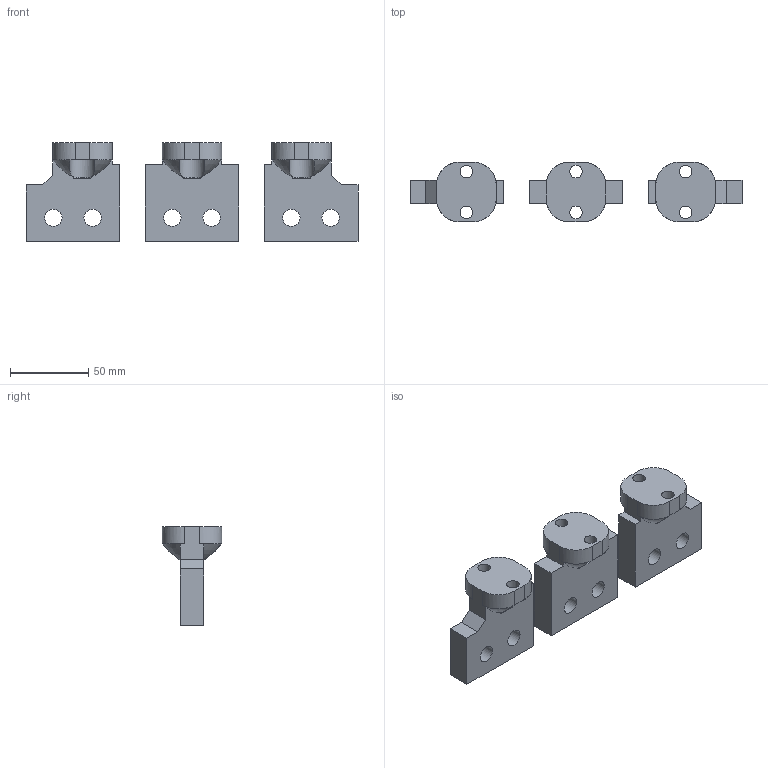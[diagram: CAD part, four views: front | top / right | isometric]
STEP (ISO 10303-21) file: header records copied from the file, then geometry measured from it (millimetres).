
FILE_DESCRIPTION(('STEP AP203'), '1');
FILE_NAME('Âûâîäû ãîðèç. 15ìì âåðõ', '', ('UNSPECIFIED'), ('UNSPECIFIED'), 'C3D Converter', 'C3D Toolkit', '');
FILE_SCHEMA(('CONFIG_CONTROL_DESIGN'));
Length unit declared in the file: millimetre
Assembly tree (3 placements, depth 2):
  (unnamed)
    (unnamed)
    (unnamed)
    (unnamed)
Bounding box: 212 x 38 x 63 mm (x, y, z)
Volume: 163841.3 mm3; surface area: 39547 mm2
Topology: 3 solids, 3 shells, 122 faces, 336 edges, 220 vertices
Faces by surface type: plane 74, cylinder 30, torus 12, bspline 6
Full cylindrical faces by diameter (mm): 8 x6, 11 x6
Entity records: 6976 total; most frequent: CARTESIAN_POINT 2728, ORIENTED_EDGE 648, DIRECTION 606, EDGE_CURVE 324, VERTEX_POINT 220, AXIS2_PLACEMENT_3D 216, LINE 174, VECTOR 174
